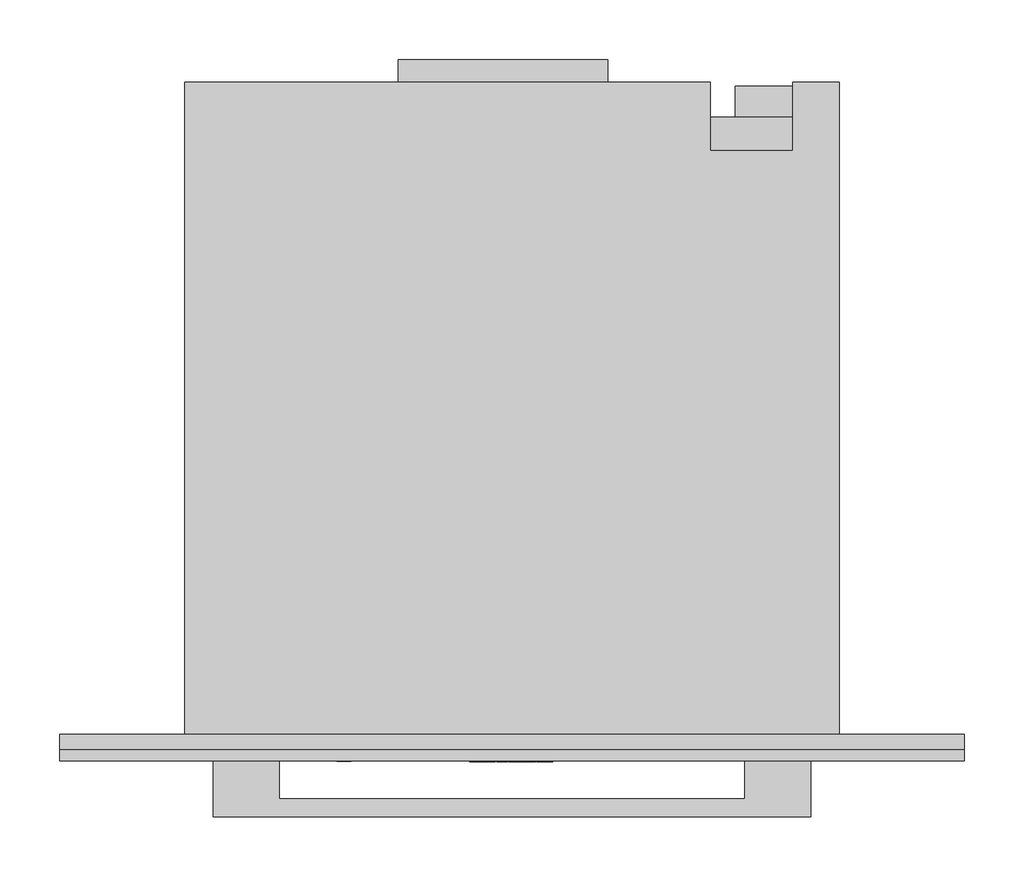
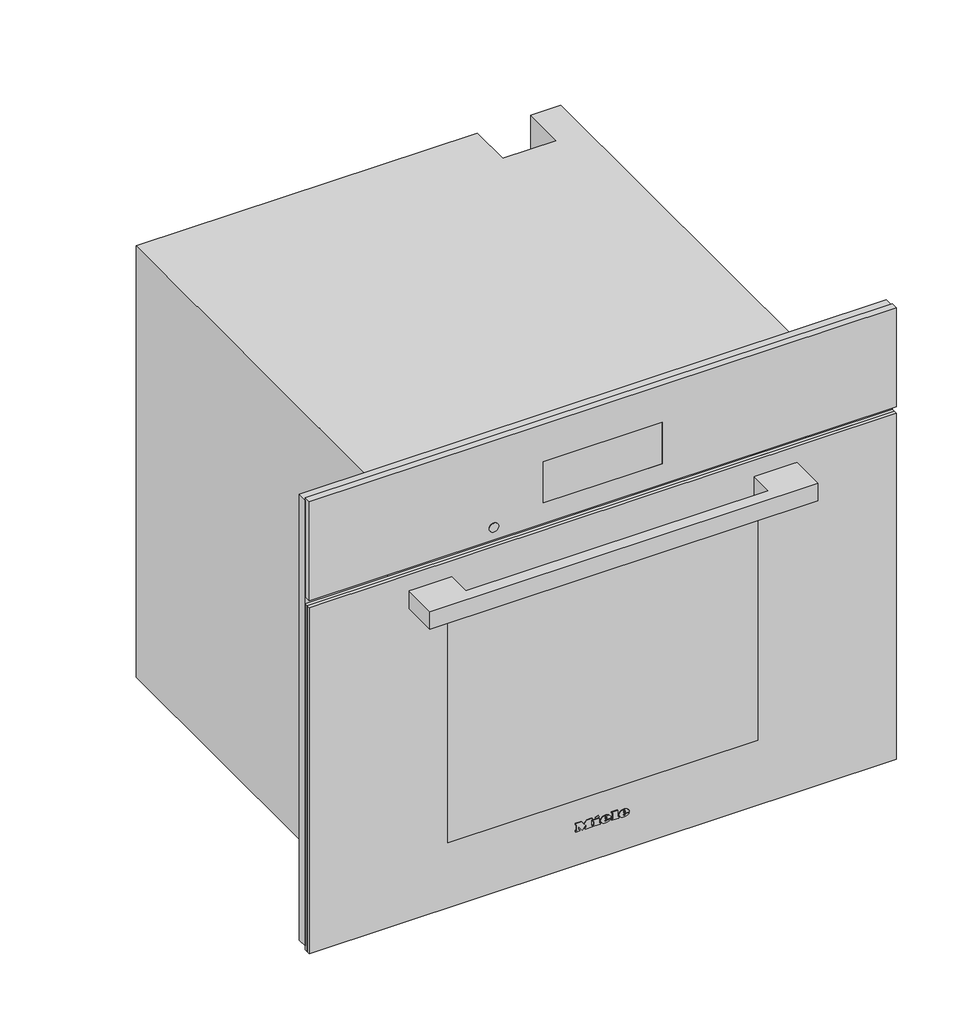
# Not in any storey: 1 proxy.
"""IFC4 building model written with IfcOpenShell, lengths in millimetres."""

import ifcopenshell
import ifcopenshell.guid

model = None  # the IFC model being written
_history = None  # IfcOwnerHistory: only IFC2X3 demands one
_inside = {}  # id of a spatial element -> (the spatial element, [elements in it])
_under = {}  # id of a project, library or spatial element -> (it, [spatial elements below it])
_declared = {}  # id of a project -> (the project, [libraries it declares])
_typed = {}  # id of a type object -> (the type object, [elements of that type])
_made_of = {}  # id of a material, layer set ... -> (it, [elements and type objects made of it])


def new_model(schema):
    """Start an empty IFC model of exactly this schema.

    Asked for "IFC4X3", IfcOpenShell would pick the latest addendum, in which some entities
    have other attributes; the version numbers below select the first issue.
    IFC2X3 requires an IfcOwnerHistory on every rooted entity: one is made here for all.
    """
    global model, _history
    if schema == "IFC4X3":
        model = ifcopenshell.file(schema_version=(4, 3, 0, 0))
    else:
        model = ifcopenshell.file(schema=schema)
    _inside.clear()
    _under.clear()
    _declared.clear()
    _typed.clear()
    _made_of.clear()
    _history = None
    if model.schema == "IFC2X3":
        org = make("IfcOrganization", Name="unknown")
        user = make(
            "IfcPersonAndOrganization",
            ThePerson=make("IfcPerson", FamilyName="unknown"),
            TheOrganization=org,
        )
        app = make(
            "IfcApplication",
            ApplicationDeveloper=org,
            Version="unknown",
            ApplicationFullName="unknown",
            ApplicationIdentifier="unknown",
        )
        _history = make(
            "IfcOwnerHistory",
            OwningUser=user,
            OwningApplication=app,
            ChangeAction="ADDED",
            CreationDate=0,
        )
    return model


def make(cls, **values):
    """One entity of the class cls with the attributes given. An attribute that is None is left unset."""
    return model.create_entity(
        cls, **{name: value for name, value in values.items() if value is not None}
    )


def rooted(cls, **values):
    """An entity with a GlobalId (a new one), such as an element, a storey or a relation."""
    return make(cls, GlobalId=ifcopenshell.guid.new(), OwnerHistory=_history, **values)


def si_unit(unit_type, name, prefix=None):
    """IfcSIUnit, for example si_unit("LENGTHUNIT", "METRE", prefix="MILLI")."""
    return make("IfcSIUnit", UnitType=unit_type, Prefix=prefix, Name=name)


def assignment(units):
    """IfcUnitAssignment: the units of a project."""
    return None if units is None else make("IfcUnitAssignment", Units=units)


def point(xyz):
    """IfcCartesianPoint."""
    return None if xyz is None else make("IfcCartesianPoint", Coordinates=xyz)


def direction(xyz):
    """IfcDirection."""
    return None if xyz is None else make("IfcDirection", DirectionRatios=xyz)


def frame(location, z_axis=None, x_axis=None):
    """IfcAxis2Placement3D, a coordinate frame: its origin and axes. An axis left out is left unset."""
    return make(
        "IfcAxis2Placement3D",
        Location=point(location),
        Axis=direction(z_axis),
        RefDirection=direction(x_axis),
    )


def frame_2d(location, x_axis=None):
    """IfcAxis2Placement2D, a coordinate frame in the plane: its origin and x axis."""
    return make(
        "IfcAxis2Placement2D", Location=point(location), RefDirection=direction(x_axis)
    )


def origin():
    """The frame at (0, 0, 0) with its axes left unset."""
    return frame((0.0, 0.0, 0.0))


def place(relative_to, where):
    """IfcLocalPlacement: puts the frame where relative to a parent placement (None: the world)."""
    return make(
        "IfcLocalPlacement", PlacementRelTo=relative_to, RelativePlacement=where
    )


def context(
    kind, dimensions, precision=None, world=None, true_north=None, identifier=None
):
    """IfcGeometricRepresentationContext, for example the 3D "Model" context."""
    return make(
        "IfcGeometricRepresentationContext",
        ContextIdentifier=identifier,
        ContextType=kind,
        CoordinateSpaceDimension=dimensions,
        Precision=precision,
        WorldCoordinateSystem=world,
        TrueNorth=true_north,
    )


def project(units=None, contexts=None):
    """IfcProject with its units and contexts."""
    return rooted(
        "IfcProject",
        Name="project",
        RepresentationContexts=contexts,
        UnitsInContext=assignment(units),
    )


def spatial(cls, under=None, at=None, **own):
    """A site, building, storey or space (cls), placed at a placement, below another one or the project."""
    s = rooted(cls, ObjectPlacement=at, **own)
    if under is not None:
        _under.setdefault(under.id(), (under, []))[1].append(s)
    return s


def polyline(points):
    """IfcPolyline through the points."""
    return make("IfcPolyline", Points=[point(p) for p in points])


def circle_curve(where, radius):
    """IfcCircle in the frame where."""
    return make("IfcCircle", Position=where, Radius=radius)


def ellipse_curve(where, semi_axis1, semi_axis2):
    """IfcEllipse in the frame where."""
    return make(
        "IfcEllipse", Position=where, SemiAxis1=semi_axis1, SemiAxis2=semi_axis2
    )


def trimmed(basis, trim1, trim2, sense, master):
    """IfcTrimmedCurve: the piece of a basis curve between two trims."""
    return make(
        "IfcTrimmedCurve",
        BasisCurve=basis,
        Trim1=trim1,
        Trim2=trim2,
        SenseAgreement=sense,
        MasterRepresentation=master,
    )


def segment(curve, same_sense, transition):
    """IfcCompositeCurveSegment."""
    return make(
        "IfcCompositeCurveSegment",
        Transition=transition,
        SameSense=same_sense,
        ParentCurve=curve,
    )


def composite_curve(segments, self_intersect=None):
    """IfcCompositeCurve: segments joined end to end."""
    return make("IfcCompositeCurve", Segments=segments, SelfIntersect=self_intersect)


def outline(outer, holes=None, kind="AREA"):
    """IfcArbitraryClosedProfileDef: a profile drawn as a closed curve; with holes, ...WithVoids."""
    if holes is None:
        return make("IfcArbitraryClosedProfileDef", ProfileType=kind, OuterCurve=outer)
    return make(
        "IfcArbitraryProfileDefWithVoids",
        ProfileType=kind,
        OuterCurve=outer,
        InnerCurves=holes,
    )


def extrude(swept, where, along, depth):
    """IfcExtrudedAreaSolid: the profile swept, set in the frame where, extruded along a direction by depth."""
    return make(
        "IfcExtrudedAreaSolid",
        SweptArea=swept,
        Position=where,
        ExtrudedDirection=direction(along),
        Depth=depth,
    )


def faces_of(points, faces, orient=None, outer=None):
    """IfcFace entities. A face is a list of loops; a loop is a list of indices into points, from 0.

    orient and outer hold one flag for each loop. By default every Orientation is true, the
    first loop of a face is its IfcFaceOuterBound and the others are IfcFaceBound.
    """
    made = []
    for i, loops in enumerate(faces):
        bounds = []
        for j, loop in enumerate(loops):
            is_outer = j == 0 if outer is None else outer[i][j]
            bounds.append(
                make(
                    "IfcFaceOuterBound" if is_outer else "IfcFaceBound",
                    Bound=make("IfcPolyLoop", Polygon=[points[k] for k in loop]),
                    Orientation=True if orient is None else orient[i][j],
                )
            )
        made.append(make("IfcFace", Bounds=bounds))
    return made


def faceted_brep(points, faces, orient=None, outer=None, voids=None):
    """IfcFacetedBrep: a solid bounded by flat faces; with voids (closed shells), ...WithVoids."""
    shared = [point(p) for p in points]
    hull = make("IfcClosedShell", CfsFaces=faces_of(shared, faces, orient, outer))
    if voids is None:
        return make("IfcFacetedBrep", Outer=hull)
    return make(
        "IfcFacetedBrepWithVoids",
        Outer=hull,
        Voids=[
            make(cls, CfsFaces=faces_of(shared, fs, o, b)) for cls, fs, o, b in voids
        ],
    )


def shape(context_of_items, identifier, shape_type, items):
    """IfcShapeRepresentation: the items that make up one representation, for example the "Body"."""
    return make(
        "IfcShapeRepresentation",
        ContextOfItems=context_of_items,
        RepresentationIdentifier=identifier,
        RepresentationType=shape_type,
        Items=items,
    )


def source(mapping_origin, context_of_items, identifier, shape_type, items):
    """IfcRepresentationMap: a shape defined once, which mapped items show again and again."""
    return make(
        "IfcRepresentationMap",
        MappingOrigin=mapping_origin,
        MappedRepresentation=shape(context_of_items, identifier, shape_type, items),
    )


def transform(
    local_origin,
    x_axis=None,
    y_axis=None,
    z_axis=None,
    scale=None,
    scale2=None,
    scale3=None,
    uniform=True,
):
    """IfcCartesianTransformationOperator3D, or its non-uniform kind. x_axis, y_axis, z_axis: its Axis1, 2, 3."""
    if uniform:
        return make(
            "IfcCartesianTransformationOperator3D",
            Axis1=direction(x_axis),
            Axis2=direction(y_axis),
            LocalOrigin=point(local_origin),
            Scale=scale,
            Axis3=direction(z_axis),
        )
    return make(
        "IfcCartesianTransformationOperator3DnonUniform",
        Axis1=direction(x_axis),
        Axis2=direction(y_axis),
        LocalOrigin=point(local_origin),
        Scale=scale,
        Axis3=direction(z_axis),
        Scale2=scale2,
        Scale3=scale3,
    )


def mapped(mapping_source, mapping_target):
    """IfcMappedItem: shows the shape of a source again, moved by a transform."""
    return make(
        "IfcMappedItem", MappingSource=mapping_source, MappingTarget=mapping_target
    )


def made_of(thing, what):
    """Note that an element or type object is made of a material, layer set ...; save() writes the relation."""
    if what is not None:
        _made_of.setdefault(what.id(), (what, []))[1].append(thing)
    return thing


def element(
    cls,
    number,
    at=None,
    inside=None,
    cuts=None,
    type_object=None,
    material=None,
    context=None,
    identifier="Body",
    shape_type=None,
    held_by="IfcProductDefinitionShape",
    body=None,
    shapes=None,
    **own,
):
    """One element of the class cls, such as IfcWall. Its Tag is "e" and its number.

    at: its placement. inside: the storey or other place that contains it. cuts: it is an
    opening in that element (IfcRelVoidsElement). A single representation is given by context,
    identifier, shape_type and body (its items); several are given by shapes. held_by: the class
    of the entity that holds the representations. save() writes the other relations.
    """
    e = rooted(cls, Tag="e%d" % number, ObjectPlacement=at, **own)
    if body is not None:
        shapes = [shape(context, identifier, shape_type, body)]
    if shapes is not None:
        e.Representation = make(held_by, Representations=shapes)
    if inside is not None:
        _inside.setdefault(inside.id(), (inside, []))[1].append(e)
    if cuts is not None:
        rooted(
            "IfcRelVoidsElement", RelatingBuildingElement=cuts, RelatedOpeningElement=e
        )
    if type_object is not None:
        _typed.setdefault(type_object.id(), (type_object, []))[1].append(e)
    return made_of(e, material)


def aggregate(whole, parts):
    """IfcRelAggregates: a whole, such as a stair, and the parts it consists of."""
    return rooted("IfcRelAggregates", RelatingObject=whole, RelatedObjects=parts)


def save(model, path):
    """Write the relations noted so far, then the file.

    IfcRelAggregates (storeys below a building ...), IfcRelContainedInSpatialStructure (elements
    in a storey), IfcRelDefinesByType, IfcRelAssociatesMaterial and IfcRelDeclares: one each for
    every whole, place, type object, material and project.
    """
    for whole, parts in _under.values():
        aggregate(whole, parts)
    for where, things in _inside.values():
        rooted(
            "IfcRelContainedInSpatialStructure",
            RelatedElements=things,
            RelatingStructure=where,
        )
    for kind, things in _typed.values():
        rooted("IfcRelDefinesByType", RelatedObjects=things, RelatingType=kind)
    for what, things in _made_of.values():
        rooted("IfcRelAssociatesMaterial", RelatedObjects=things, RelatingMaterial=what)
    for by, libraries in _declared.values():
        rooted("IfcRelDeclares", RelatingContext=by, RelatedDefinitions=libraries)
    model.write(path)


def plane_surface(at):
    """IfcPlane: the flat surface through the origin of the frame at, square to its z axis."""
    return make("IfcPlane", Position=at)


def cylinder_surface(at, radius):
    """IfcCylindricalSurface: all points at the distance radius from the z axis of the frame at."""
    return make("IfcCylindricalSurface", Position=at, Radius=radius)


def revolved_surface(curve, axis_point, axis_direction):
    """IfcSurfaceOfRevolution: the curve turned about the line through axis_point along axis_direction."""
    return make(
        "IfcSurfaceOfRevolution",
        SweptCurve=make("IfcArbitraryOpenProfileDef", ProfileType="CURVE", Curve=curve),
        AxisPosition=make("IfcAxis1Placement", Location=point(axis_point), Axis=direction(axis_direction)),
    )


def extruded_surface(curve, direction_of_extrusion, depth):
    """IfcSurfaceOfLinearExtrusion: the curve pushed along a direction by depth."""
    return make(
        "IfcSurfaceOfLinearExtrusion",
        SweptCurve=make("IfcArbitraryOpenProfileDef", ProfileType="CURVE", Curve=curve),
        ExtrudedDirection=direction(direction_of_extrusion),
        Depth=depth,
    )


def advanced_brep(points, edges, surfaces, faces):
    """IfcAdvancedBrep: a solid bounded by faces that lie on surfaces and meet in shared edges.

    An edge is (start, end): straight between two places in points (the first is 0);
    or (start, end, curve); or (start, end, curve, False) where it runs against its curve.
    A face is (place in surfaces, loops), or (place, loops, False) where it looks against
    its surface's normal. A loop lists edges by number (the first is 1), with a minus sign
    where the edge is run from its end to its start. The first loop is the outer one.
    """
    corners = [point(p) for p in points]
    vertices = [make("IfcVertexPoint", VertexGeometry=c) for c in corners]
    made = []
    for start, end, *more in edges:
        made.append(
            make(
                "IfcEdgeCurve",
                EdgeStart=vertices[start],
                EdgeEnd=vertices[end],
                EdgeGeometry=more[0] if more else make("IfcPolyline", Points=[corners[start], corners[end]]),
                SameSense=more[1] if len(more) > 1 else True,
            )
        )
    hull = []
    for where, loops, *sense in faces:
        bounds = []
        for j, loop in enumerate(loops):
            ring = [make("IfcOrientedEdge", EdgeElement=made[abs(k) - 1], Orientation=k > 0) for k in loop]
            bounds.append(
                make(
                    "IfcFaceOuterBound" if j == 0 else "IfcFaceBound",
                    Bound=make("IfcEdgeLoop", EdgeList=ring),
                    Orientation=True,
                )
            )
        hull.append(make("IfcAdvancedFace", Bounds=bounds, FaceSurface=surfaces[where], SameSense=sense[0] if sense else True))
    return make("IfcAdvancedBrep", Outer=make("IfcClosedShell", CfsFaces=hull))


def specialty_equipment_2a973225(model_context):
    return source(origin(), model_context, "Body", "SolidModel", [
        faceted_brep([(378.5, -13.0, 617.0), (-378.5, -13.0, 617.0), (-378.5, -13.0, 9.0), (-272.5, -13.0, 9.0), (-272.5, -13.0, 485.0), (272.5, -13.0, 485.0), (272.5, -13.0, 9.0), (378.5, -13.0, 9.0), (378.5, 0.0, 617.0), (378.5, 0.0, 9.0), (-378.5, 0.0, 9.0), (-378.5, 0.0, 617.0), (231.0, 0.0, 61.0), (231.0, 0.0, 411.0), (-231.0, 0.0, 411.0), (-231.0, 0.0, 61.0), (272.5, -5.0, 9.0), (-272.5, -5.0, 9.0), (-272.5, -5.0, 485.0), (272.5, -5.0, 485.0), (231.0, -5.0, 411.0), (231.0, -5.0, 61.0), (-231.0, -5.0, 61.0), (-231.0, -5.0, 411.0)], [[[0, 1, 2, 3, 4, 5, 6, 7]], [[8, 9, 10, 11], [12, 13, 14, 15]], [[1, 0, 8, 11]], [[2, 1, 11, 10]], [[10, 9, 7, 6, 16, 17, 3, 2]], [[0, 7, 9, 8]], [[18, 19, 5, 4]], [[18, 4, 3, 17]], [[5, 19, 16, 6]], [[19, 18, 17, 16], [20, 21, 22, 23]], [[20, 13, 12, 21]], [[21, 12, 15, 22]], [[22, 15, 14, 23]], [[13, 20, 23, 14]]]),
        extrude(outline(polyline([(-95.0, 565.0), (80.0, 565.0), (80.0, 546.0), (-95.0, 546.0), (-95.0, 565.0)])), frame((0.0, 0.0, 311.0), z_axis=(0.0, 0.0, 1.0), x_axis=(1.0, 0.0, 0.0)), (0.0, 0.0, 1.0), 1.0),
        extrude(outline(polyline([(218.8383288, 522.0), (225.1236409, 522.0), (225.1236409, 511.9492425), (223.8571792, 511.9492425), (223.8571792, 520.7409796), (218.8383288, 520.7409796), (218.8383288, 522.0)])), frame((0.0, 0.0, 272.0), z_axis=(0.0, 0.0, 1.0), x_axis=(1.0, 0.0, 0.0)), (0.0, 0.0, 1.0), 1.0),
        extrude(outline(polyline([(227.0, 522.0), (234.3797826, 522.0), (234.3797826, 511.9503529), (227.15422, 511.9503529), (227.15422, 513.220938), (233.1355215, 513.220938), (233.1355215, 516.1975645), (227.4863097, 516.1975645), (227.4863097, 517.449242), (233.1355215, 517.449242), (233.1355215, 520.7448633), (227.0, 520.7448633), (227.0, 522.0)])), frame((0.0, 0.0, 272.0), z_axis=(0.0, 0.0, 1.0), x_axis=(1.0, 0.0, 0.0)), (0.0, 0.0, 1.0), 1.0),
        extrude(outline(composite_curve([segment(trimmed(circle_curve(frame_2d((227.0, 517.0)), 7.5), [point((219.5, 517.0))], [point((234.5, 517.0))], False, "CARTESIAN"), True, "CONTINUOUS"), segment(trimmed(circle_curve(frame_2d((227.0, 517.0)), 7.5), [point((234.5, 517.0))], [point((219.5, 517.0))], False, "CARTESIAN"), True, "CONTINUOUS")], self_intersect=False)), frame((0.0, 0.0, 273.0), z_axis=(0.0, 0.0, 1.0), x_axis=(1.0, 0.0, 0.0)), (0.0, 0.0, 1.0), 30.0),
        extrude(outline(polyline([(266.0, 517.0), (187.0, 517.0), (187.0, 543.0), (266.0, 543.0), (266.0, 517.0)])), frame((0.0, 0.0, 303.0), z_axis=(0.0, 0.0, 1.0), x_axis=(1.0, 0.0, 0.0)), (0.0, 0.0, 1.0), 111.0),
        faceted_brep([(-274.0, 546.0, 0.0), (-274.0, 546.0, 588.0), (166.0, 546.0, 588.0), (166.0, 546.0, 0.0), (235.0, 546.0, 588.0), (274.0, 546.0, 588.0), (274.0, 546.0, 478.0), (235.0, 546.0, 478.0), (274.0, 0.0, 588.0), (-274.0, 0.0, 588.0), (-274.0, 0.0, 0.0), (274.0, 0.0, 0.0), (231.0, 0.0, 411.0), (231.0, 0.0, 61.0), (-231.0, 0.0, 61.0), (-231.0, 0.0, 411.0), (235.0, 489.0, 588.0), (166.0, 489.0, 588.0), (166.0, 517.0, 0.0), (274.0, 517.0, 0.0), (274.0, 517.0, 478.0), (231.0, 411.0, 411.0), (-231.0, 411.0, 411.0), (-231.0, 411.0, 61.0), (231.0, 411.0, 61.0), (235.0, 489.0, 477.0), (166.0, 489.0, 477.0), (166.0, 517.0, 477.0), (235.0, 517.0, 477.0), (235.0, 517.0, 478.0)], [[[0, 1, 2, 3]], [[4, 5, 6, 7]], [[8, 9, 10, 11], [12, 13, 14, 15]], [[9, 8, 5, 4, 16, 17, 2, 1]], [[1, 0, 10, 9]], [[11, 10, 0, 3, 18, 19]], [[8, 11, 19, 20, 6, 5]], [[21, 22, 23, 24]], [[21, 24, 13, 12]], [[24, 23, 14, 13]], [[23, 22, 15, 14]], [[22, 21, 12, 15]], [[16, 25, 26, 17]], [[17, 26, 27, 18, 3, 2]], [[26, 25, 28, 27]], [[25, 16, 4, 7, 29, 28]], [[29, 20, 19, 18, 27, 28]], [[20, 29, 7, 6]]]),
        advanced_brep(
        [(26.2998, -23.0, 52.7018), (26.2998, -23.0, 53.8532), (33.9264, -23.0, 53.8532), (20.6568, -23.0, 53.8532), (23.7918, -23.0, 50.0), (33.7326, -23.0, 52.7018), (30.2898, -23.0, 52.7018), (27.5766, -23.0, 51.425), (26.2998, -23.0, 55.3124), (26.2998, -23.0, 56.555), (28.2492, -23.0, 56.555), (28.2492, -23.0, 55.3124), (26.2998, -22.0, 52.7018), (27.5766, -22.0, 51.425), (30.2898, -22.0, 52.7018), (33.7326, -22.0, 52.7018), (23.7918, -22.0, 50.0), (20.6568, -22.0, 53.8532), (33.9264, -22.0, 53.8532), (26.2998, -22.0, 53.8532), (26.2998, -22.0, 55.3124), (28.2492, -22.0, 55.3124), (28.2492, -22.0, 56.555), (26.2998, -22.0, 56.555)],
        [
            (0, 1),
            (1, 2),
            (2, 3, ellipse_curve(frame((27.2916, -23.0, 53.8532), z_axis=(0.0, -1.0, 0.0), x_axis=(-1.0, 0.0, 0.0)), 6.6348, 5.4834)),
            (3, 4, circle_curve(frame((25.0686622, -23.0, 54.2408), z_axis=(0.0, -1.0, 0.0), x_axis=(0.0, 0.0, -1.0)), 4.4288556)),
            (4, 5, circle_curve(frame((27.1587808, -23.0, 57.2504), z_axis=(0.0, -1.0, 0.0), x_axis=(0.0, 0.0, -1.0)), 7.9940516)),
            (5, 6),
            (6, 7, circle_curve(frame((28.1338588, -23.0, 53.762), z_axis=(0.0, 1.0, 0.0), x_axis=(0.0, 0.0, -1.0)), 2.4025208)),
            (7, 0, circle_curve(frame((27.5766, -23.0, 52.7018), z_axis=(0.0, 1.0, 0.0), x_axis=(0.0, 0.0, -1.0)), 1.2768)),
            (8, 9),
            (9, 10, circle_curve(frame((27.2745, -23.0, 56.555), z_axis=(0.0, 1.0, 0.0), x_axis=(0.0, 0.0, -1.0)), 0.9747)),
            (10, 11),
            (11, 8),
            (12, 13, circle_curve(frame((27.5766, -22.0, 52.7018), z_axis=(0.0, -1.0, 0.0), x_axis=(0.0, 0.0, -1.0)), 1.2768)),
            (13, 14, circle_curve(frame((28.1338588, -22.0, 53.762), z_axis=(0.0, -1.0, 0.0), x_axis=(0.0, 0.0, -1.0)), 2.4025208)),
            (14, 15),
            (15, 16, circle_curve(frame((27.1587808, -22.0, 57.2504), z_axis=(0.0, 1.0, 0.0), x_axis=(0.0, 0.0, -1.0)), 7.9940516)),
            (16, 17, circle_curve(frame((25.0686622, -22.0, 54.2408), z_axis=(0.0, 1.0, 0.0), x_axis=(0.0, 0.0, -1.0)), 4.4288556)),
            (17, 18, ellipse_curve(frame((27.2916, -22.0, 53.8532), z_axis=(0.0, 1.0, 0.0), x_axis=(-1.0, 0.0, 0.0)), 6.6348, 5.4834)),
            (18, 19),
            (19, 12),
            (20, 21),
            (21, 22),
            (22, 23, circle_curve(frame((27.2745, -22.0, 56.555), z_axis=(0.0, -1.0, 0.0), x_axis=(0.0, 0.0, -1.0)), 0.9747)),
            (23, 20),
            (0, 12),
            (19, 1),
            (18, 2),
            (5, 15),
            (14, 6),
            (17, 3),
            (13, 7),
            (16, 4),
            (8, 20),
            (23, 9),
            (22, 10),
            (21, 11),
        ],
        [
            plane_surface(frame((26.2998, -23.0, 53.8532), z_axis=(0.0, -1.0, 0.0), x_axis=(0.0, 0.0, 1.0))),
            plane_surface(frame((26.2998, -22.0, 53.8532), z_axis=(0.0, 1.0, 0.0), x_axis=(0.0, 0.0, -1.0))),
            plane_surface(frame((26.2998, -23.0, 52.7018), z_axis=(1.0, 0.0, 0.0), x_axis=(0.0, 1.0, 0.0))),
            plane_surface(frame((26.2998, -23.0, 53.8532), z_axis=(0.0, 0.0, -1.0), x_axis=(0.0, 1.0, 0.0))),
            plane_surface(frame((33.7326, -23.0, 52.7018), z_axis=(0.0, 0.0, 1.0), x_axis=(0.0, 1.0, 0.0))),
            extruded_surface(trimmed(ellipse_curve(frame((27.2916, -21.0, 53.8532), z_axis=(0.0, -1.0, 0.0), x_axis=(-1.0, 0.0, 0.0)), 6.6348, 5.4834), [point((33.9264, -21.0, 53.8532))], [point((20.6568, -21.0, 53.8532))], True, "CARTESIAN"), (0.0, -1.0, 0.0), 1.0),
            revolved_surface(polyline([(28.1338588, -22.0, 51.3594792), (28.1338588, -23.0, 51.3594792)]), (28.1338588, -22.0, 53.762), (0.0, 1.0, 0.0)),
            revolved_surface(polyline([(27.5766, -22.0, 51.425), (27.5766, -23.0, 51.425)]), (27.5766, -22.0, 52.7018), (0.0, 1.0, 0.0)),
            cylinder_surface(frame((25.0686622, -22.0, 54.2408), z_axis=(0.0, -1.0, 0.0), x_axis=(0.0, 0.0, -1.0)), 4.4288556),
            cylinder_surface(frame((27.1587808, -22.0, 57.2504), z_axis=(0.0, -1.0, 0.0), x_axis=(0.0, 0.0, -1.0)), 7.9940516),
            plane_surface(frame((26.2998, -23.0, 55.3124), z_axis=(1.0, 0.0, 0.0), x_axis=(0.0, 1.0, 0.0))),
            revolved_surface(polyline([(27.2745, -22.0, 55.5803), (27.2745, -23.0, 55.5803)]), (27.2745, -22.0, 56.555), (0.0, 1.0, 0.0)),
            plane_surface(frame((28.2492, -23.0, 56.555), z_axis=(-1.0, 0.0, 0.0), x_axis=(0.0, 1.0, 0.0))),
            plane_surface(frame((28.2492, -23.0, 55.3124), z_axis=(0.0, 0.0, 1.0), x_axis=(0.0, 1.0, 0.0))),
        ],
        [
            (0, [[1, 2, 3, 4, 5, 6, 7, 8], [9, 10, 11, 12]]),
            (1, [[13, 14, 15, 16, 17, 18, 19, 20], [21, 22, 23, 24]]),
            (2, [[-1, 25, -20, 26]]),
            (3, [[-2, -26, -19, 27]]),
            (4, [[-6, 28, -15, 29]]),
            (5, [[-3, -27, -18, 30]]),
            (6, [[-7, -29, -14, 31]]),
            (7, [[-8, -31, -13, -25]]),
            (8, [[-4, -30, -17, 32]]),
            (9, [[-5, -32, -16, -28]]),
            (10, [[-9, 33, -24, 34]]),
            (11, [[-10, -34, -23, 35]]),
            (12, [[-11, -35, -22, 36]]),
            (13, [[-12, -36, -21, -33]]),
        ],
    ),
        advanced_brep(
        [(2.508, -23.0, 52.7018), (2.508, -23.0, 53.8532), (10.1346, -23.0, 53.8532), (-3.135, -23.0, 53.8532), (0.0, -23.0, 50.0), (9.9408, -23.0, 52.7018), (6.498, -23.0, 52.7018), (3.7848, -23.0, 51.425), (2.508, -23.0, 55.3124), (2.508, -23.0, 56.555), (4.4574, -23.0, 56.555), (4.4574, -23.0, 55.3124), (2.508, -22.0, 52.7018), (3.7848, -22.0, 51.425), (6.498, -22.0, 52.7018), (9.9408, -22.0, 52.7018), (0.0, -22.0, 50.0), (-3.135, -22.0, 53.8532), (10.1346, -22.0, 53.8532), (2.508, -22.0, 53.8532), (2.508, -22.0, 55.3124), (4.4574, -22.0, 55.3124), (4.4574, -22.0, 56.555), (2.508, -22.0, 56.555)],
        [
            (0, 1),
            (1, 2),
            (2, 3, ellipse_curve(frame((3.4998, -23.0, 53.8532), z_axis=(0.0, -1.0, 0.0), x_axis=(-1.0, 0.0, 0.0)), 6.6348, 5.4834)),
            (3, 4, circle_curve(frame((1.2768622, -23.0, 54.2408), z_axis=(0.0, -1.0, 0.0), x_axis=(0.0, 0.0, -1.0)), 4.4288556)),
            (4, 5, circle_curve(frame((3.3669808, -23.0, 57.2504), z_axis=(0.0, -1.0, 0.0), x_axis=(0.0, 0.0, -1.0)), 7.9940516)),
            (5, 6),
            (6, 7, circle_curve(frame((4.3420588, -23.0, 53.762), z_axis=(0.0, 1.0, 0.0), x_axis=(0.0, 0.0, -1.0)), 2.4025208)),
            (7, 0, circle_curve(frame((3.7848, -23.0, 52.7018), z_axis=(0.0, 1.0, 0.0), x_axis=(0.0, 0.0, -1.0)), 1.2768)),
            (8, 9),
            (9, 10, circle_curve(frame((3.4827, -23.0, 56.555), z_axis=(0.0, 1.0, 0.0), x_axis=(0.0, 0.0, -1.0)), 0.9747)),
            (10, 11),
            (11, 8),
            (12, 13, circle_curve(frame((3.7848, -22.0, 52.7018), z_axis=(0.0, -1.0, 0.0), x_axis=(0.0, 0.0, -1.0)), 1.2768)),
            (13, 14, circle_curve(frame((4.3420588, -22.0, 53.762), z_axis=(0.0, -1.0, 0.0), x_axis=(0.0, 0.0, -1.0)), 2.4025208)),
            (14, 15),
            (15, 16, circle_curve(frame((3.3669808, -22.0, 57.2504), z_axis=(0.0, 1.0, 0.0), x_axis=(0.0, 0.0, -1.0)), 7.9940516)),
            (16, 17, circle_curve(frame((1.2768622, -22.0, 54.2408), z_axis=(0.0, 1.0, 0.0), x_axis=(0.0, 0.0, -1.0)), 4.4288556)),
            (17, 18, ellipse_curve(frame((3.4998, -22.0, 53.8532), z_axis=(0.0, 1.0, 0.0), x_axis=(-1.0, 0.0, 0.0)), 6.6348, 5.4834)),
            (18, 19),
            (19, 12),
            (20, 21),
            (21, 22),
            (22, 23, circle_curve(frame((3.4827, -22.0, 56.555), z_axis=(0.0, -1.0, 0.0), x_axis=(0.0, 0.0, -1.0)), 0.9747)),
            (23, 20),
            (0, 12),
            (19, 1),
            (18, 2),
            (5, 15),
            (14, 6),
            (17, 3),
            (13, 7),
            (16, 4),
            (8, 20),
            (23, 9),
            (22, 10),
            (21, 11),
        ],
        [
            plane_surface(frame((2.508, -23.0, 53.8532), z_axis=(0.0, -1.0, 0.0), x_axis=(0.0, 0.0, 1.0))),
            plane_surface(frame((2.508, -22.0, 53.8532), z_axis=(0.0, 1.0, 0.0), x_axis=(0.0, 0.0, -1.0))),
            plane_surface(frame((2.508, -23.0, 52.7018), z_axis=(1.0, 0.0, 0.0), x_axis=(0.0, 1.0, 0.0))),
            plane_surface(frame((2.508, -23.0, 53.8532), z_axis=(0.0, 0.0, -1.0), x_axis=(0.0, 1.0, 0.0))),
            plane_surface(frame((9.9408, -23.0, 52.7018), z_axis=(0.0, 0.0, 1.0), x_axis=(0.0, 1.0, 0.0))),
            extruded_surface(trimmed(ellipse_curve(frame((3.4998, -21.0, 53.8532), z_axis=(0.0, -1.0, 0.0), x_axis=(-1.0, 0.0, 0.0)), 6.6348, 5.4834), [point((10.1346, -21.0, 53.8532))], [point((-3.135, -21.0, 53.8532))], True, "CARTESIAN"), (0.0, -1.0, 0.0), 1.0),
            revolved_surface(polyline([(4.3420588, -22.0, 51.3594792), (4.3420588, -23.0, 51.3594792)]), (4.3420588, -22.0, 53.762), (0.0, 1.0, 0.0)),
            revolved_surface(polyline([(3.7848, -22.0, 51.425), (3.7848, -23.0, 51.425)]), (3.7848, -22.0, 52.7018), (0.0, 1.0, 0.0)),
            cylinder_surface(frame((1.2768622, -22.0, 54.2408), z_axis=(0.0, -1.0, 0.0), x_axis=(0.0, 0.0, -1.0)), 4.4288556),
            cylinder_surface(frame((3.3669808, -22.0, 57.2504), z_axis=(0.0, -1.0, 0.0), x_axis=(0.0, 0.0, -1.0)), 7.9940516),
            plane_surface(frame((2.508, -23.0, 55.3124), z_axis=(1.0, 0.0, 0.0), x_axis=(0.0, 1.0, 0.0))),
            revolved_surface(polyline([(3.4827, -22.0, 55.5803), (3.4827, -23.0, 55.5803)]), (3.4827, -22.0, 56.555), (0.0, 1.0, 0.0)),
            plane_surface(frame((4.4574, -23.0, 56.555), z_axis=(-1.0, 0.0, 0.0), x_axis=(0.0, 1.0, 0.0))),
            plane_surface(frame((4.4574, -23.0, 55.3124), z_axis=(0.0, 0.0, 1.0), x_axis=(0.0, 1.0, 0.0))),
        ],
        [
            (0, [[1, 2, 3, 4, 5, 6, 7, 8], [9, 10, 11, 12]]),
            (1, [[13, 14, 15, 16, 17, 18, 19, 20], [21, 22, 23, 24]]),
            (2, [[-1, 25, -20, 26]]),
            (3, [[-2, -26, -19, 27]]),
            (4, [[-6, 28, -15, 29]]),
            (5, [[-3, -27, -18, 30]]),
            (6, [[-7, -29, -14, 31]]),
            (7, [[-8, -31, -13, -25]]),
            (8, [[-4, -30, -17, 32]]),
            (9, [[-5, -32, -16, -28]]),
            (10, [[-9, 33, -24, 34]]),
            (11, [[-10, -34, -23, 35]]),
            (12, [[-11, -35, -22, 36]]),
            (13, [[-12, -36, -21, -33]]),
        ],
    ),
        extrude(outline(polyline([(60.7274, -9.9522), (58.8806, -9.0858), (60.6818, -5.2212), (62.5286, -6.0762), (60.7274, -9.9522)])), frame((0.0, -23.0, 0.0), z_axis=(0.0, 1.0, 0.0), x_axis=(0.0, 0.0, 1.0)), (0.0, 0.0, 1.0), 1.0),
        extrude(outline(polyline([(58.6298, -12.768), (56.5892, -12.768), (56.5892, -11.4114), (51.9152, -11.4114), (51.9152, -12.768), (50.0, -12.768), (50.0, -3.7734), (51.9152, -3.7734), (51.9152, -5.0958), (58.6298, -5.0958), (58.6298, -12.768)])), frame((0.0, -23.0, 0.0), z_axis=(0.0, 1.0, 0.0), x_axis=(0.0, 0.0, 1.0)), (0.0, 0.0, 1.0), 1.0),
        extrude(outline(polyline([(59.5418, 10.773), (59.5418, 12.141), (51.9152, 12.141), (51.9152, 10.773), (50.0, 10.773), (50.0, 20.0184), (51.9152, 20.0184), (51.9152, 18.6162), (61.4, 18.6162), (61.4, 10.773), (59.5418, 10.773)])), frame((0.0, -23.0, 0.0), z_axis=(0.0, 1.0, 0.0), x_axis=(0.0, 0.0, 1.0)), (0.0, 0.0, 1.0), 1.0),
        extrude(outline(polyline([(59.5418, -35.4882), (59.5418, -34.1088), (51.9152, -34.1088), (51.9152, -35.4882), (50.0, -35.4882), (50.0, -30.4722), (51.9152, -30.4722), (51.9152, -31.8402), (56.7429247, -31.8402), (50.0, -26.7444), (56.9402223, -21.6258), (51.9152, -21.6258), (51.9152, -23.028), (50.0, -23.028), (50.0, -13.9308), (51.9152, -13.9308), (51.9152, -15.3786), (59.5418, -15.3786), (59.5418, -13.9308), (61.4, -13.9308), (61.4, -20.8734), (57.125, -24.2022), (61.4, -27.5424), (61.4, -35.4882), (59.5418, -35.4882)])), frame((0.0, -23.0, 0.0), z_axis=(0.0, 1.0, 0.0), x_axis=(0.0, 0.0, 1.0)), (0.0, 0.0, 1.0), 1.0),
        extrude(outline(composite_curve([segment(trimmed(circle_curve(frame_2d((502.0, -140.5745637)), 6.0), [point((502.0, -146.5745637))], [point((502.0, -134.5745637))], False, "CARTESIAN"), True, "CONTINUOUS"), segment(trimmed(circle_curve(frame_2d((502.0, -140.5745637)), 6.0), [point((502.0, -134.5745637))], [point((502.0, -146.5745637))], False, "CARTESIAN"), True, "CONTINUOUS")], self_intersect=False)), frame((0.0, -22.5, 0.0), z_axis=(0.0, 1.0, 0.0), x_axis=(0.0, 0.0, 1.0)), (0.0, 0.0, 1.0), 1.0),
        extrude(outline(polyline([(-76.5, -21.0), (76.5, -21.0), (76.5, -22.0), (-76.5, -22.0), (-76.5, -21.0)])), frame((0.0, 0.0, 513.0), z_axis=(0.0, 0.0, 1.0), x_axis=(1.0, 0.0, 0.0)), (0.0, 0.0, 1.0), 56.0),
        faceted_brep([(378.5, -22.0, 620.0), (-378.5, -22.0, 620.0), (-378.5, -22.0, 485.0), (378.5, -22.0, 485.0), (76.5, -22.0, 569.0), (76.5, -22.0, 513.0), (-76.5, -22.0, 513.0), (-76.5, -22.0, 569.0), (378.5, -13.0, 620.0), (378.5, -13.0, 485.0), (-378.5, -13.0, 485.0), (-378.5, -13.0, 620.0), (76.5, -21.0, 569.0), (-76.5, -21.0, 569.0), (-76.5, -21.0, 513.0), (76.5, -21.0, 513.0)], [[[0, 1, 2, 3], [4, 5, 6, 7]], [[8, 9, 10, 11]], [[1, 0, 8, 11]], [[2, 1, 11, 10]], [[3, 2, 10, 9]], [[0, 3, 9, 8]], [[12, 13, 14, 15]], [[12, 15, 5, 4]], [[15, 14, 6, 5]], [[14, 13, 7, 6]], [[13, 12, 4, 7]]]),
        extrude(outline(polyline([(200.0, -22.0), (-200.0, -22.0), (-200.0, -18.0), (200.0, -18.0), (200.0, -22.0)])), frame((0.0, 0.0, 92.5), z_axis=(0.0, 0.0, 1.0), x_axis=(1.0, 0.0, 0.0)), (0.0, 0.0, 1.0), 300.0),
        extrude(outline(polyline([(476.0, 378.5), (476.0, -378.5), (4.0, -378.5), (4.0, 378.5), (476.0, 378.5)]), holes=[polyline([(392.5, -200.0), (392.5, 200.0), (92.5, 200.0), (92.5, -200.0), (392.5, -200.0)])]), frame((0.0, -22.0, 0.0), z_axis=(0.0, 1.0, 0.0), x_axis=(0.0, 0.0, 1.0)), (0.0, 0.0, 1.0), 4.0),
        extrude(outline(polyline([(-250.0, -69.0), (-250.0, -22.0), (-195.0, -22.0), (-195.0, -54.0), (195.0, -54.0), (195.0, -22.0), (250.0, -22.0), (250.0, -69.0), (-250.0, -69.0)])), frame((0.0, 0.0, 430.0), z_axis=(0.0, 0.0, 1.0), x_axis=(1.0, 0.0, 0.0)), (0.0, 0.0, 1.0), 24.0),
        extrude(outline(polyline([(378.5, -18.0), (-378.5, -18.0), (-378.5, -13.0), (378.5, -13.0), (378.5, -18.0)])), frame((0.0, 0.0, 4.0), z_axis=(0.0, 0.0, 1.0), x_axis=(1.0, 0.0, 0.0)), (0.0, 0.0, 1.0), 472.0),
    ])


model = new_model("IFC4")

# Units and contexts
model_context = context("Model", 3, world=origin())
ifc_project = project(units=[si_unit("LENGTHUNIT", "METRE", prefix="MILLI")], contexts=[model_context])

# Site, building
site = spatial("IfcSite", under=ifc_project)
building = spatial("IfcBuilding", under=site)

# Proxy
placement = place(None, origin())
specialty_equipment_shape = specialty_equipment_2a973225(model_context)
element("IfcBuildingElementProxy", 1, Name="11876420_USA_DGC7880_OBSW : 23788023_USA_11876420_DGC7880_OBSW", ObjectType="11876420_USA_DGC7880_OBSW : 23788023_USA_11876420_DGC7880_OBSW", at=placement, inside=building, context=model_context, shape_type="MappedRepresentation", body=[
    mapped(specialty_equipment_shape, transform((0.0, 0.0, 0.0), x_axis=(1.0, 0.0, 0.0), y_axis=(0.0, 1.0, 0.0), z_axis=(0.0, 0.0, 1.0))),
])

save(model, "model.ifc")
